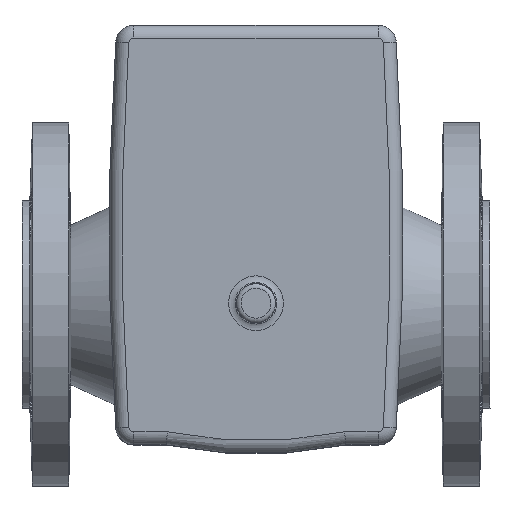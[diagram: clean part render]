
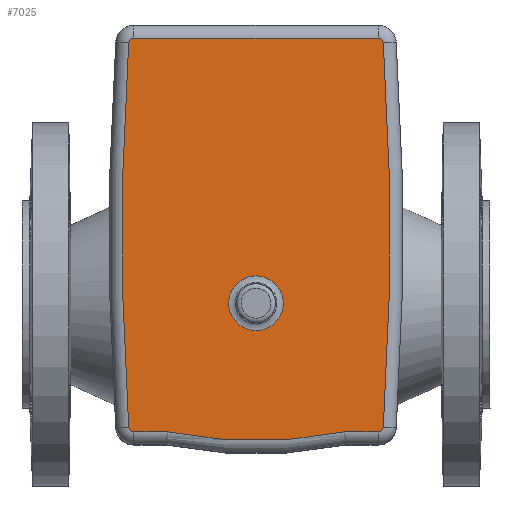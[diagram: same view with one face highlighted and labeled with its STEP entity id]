
A CAD part, top view. The second image highlights one B-rep face of the part: STEP entity #7025.
In plain terms, the highlighted planar face has unit normal (0, 0, 1).
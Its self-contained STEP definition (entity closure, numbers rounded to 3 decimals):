
#248=PLANE('',#7581);
#484=CIRCLE('',#7556,169.964);
#487=CIRCLE('',#7561,1.964);
#489=CIRCLE('',#7564,1096.964);
#491=CIRCLE('',#7567,1.964);
#493=CIRCLE('',#7571,1.964);
#495=CIRCLE('',#7574,1096.964);
#497=CIRCLE('',#7577,1.964);
#499=CIRCLE('',#7582,10.521);
#1853=ORIENTED_EDGE('',*,*,#2582,.F.);
#1854=ORIENTED_EDGE('',*,*,#2579,.F.);
#1855=ORIENTED_EDGE('',*,*,#2577,.F.);
#1856=ORIENTED_EDGE('',*,*,#2575,.F.);
#1857=ORIENTED_EDGE('',*,*,#2593,.F.);
#1858=ORIENTED_EDGE('',*,*,#2591,.F.);
#1859=ORIENTED_EDGE('',*,*,#2589,.F.);
#1860=ORIENTED_EDGE('',*,*,#2588,.F.);
#1861=ORIENTED_EDGE('',*,*,#2586,.F.);
#1862=ORIENTED_EDGE('',*,*,#2584,.F.);
#1863=ORIENTED_EDGE('',*,*,#2595,.T.);
#2575=EDGE_CURVE('',#3044,#3045,#3423,.T.);
#2577=EDGE_CURVE('',#3045,#3046,#484,.T.);
#2579=EDGE_CURVE('',#3046,#3047,#3424,.T.);
#2582=EDGE_CURVE('',#3047,#3048,#487,.T.);
#2584=EDGE_CURVE('',#3048,#3049,#489,.T.);
#2586=EDGE_CURVE('',#3049,#3050,#491,.T.);
#2588=EDGE_CURVE('',#3050,#3051,#3425,.T.);
#2589=EDGE_CURVE('',#3051,#3052,#493,.T.);
#2591=EDGE_CURVE('',#3052,#3053,#495,.T.);
#2593=EDGE_CURVE('',#3053,#3044,#497,.T.);
#2595=EDGE_CURVE('',#3055,#3055,#499,.T.);
#3044=VERTEX_POINT('',#10682);
#3045=VERTEX_POINT('',#10684);
#3046=VERTEX_POINT('',#10693);
#3047=VERTEX_POINT('',#10702);
#3048=VERTEX_POINT('',#10706);
#3049=VERTEX_POINT('',#10710);
#3050=VERTEX_POINT('',#10714);
#3051=VERTEX_POINT('',#10718);
#3052=VERTEX_POINT('',#10722);
#3053=VERTEX_POINT('',#10726);
#3055=VERTEX_POINT('',#10736);
#3423=LINE('',#10683,#3761);
#3424=LINE('',#10701,#3762);
#3425=LINE('',#10719,#3763);
#3761=VECTOR('',#8951,1000.);
#3762=VECTOR('',#8958,1000.);
#3763=VECTOR('',#8983,1000.);
#4089=EDGE_LOOP('',(#1853,#1854,#1855,#1856,#1857,#1858,#1859,#1860,#1861,
#1862));
#4090=EDGE_LOOP('',(#1863));
#4488=FACE_BOUND('',#4089,.T.);
#4489=FACE_BOUND('',#4090,.T.);
#7025=ADVANCED_FACE('',(#4488,#4489),#248,.F.);
#7556=AXIS2_PLACEMENT_3D('',#10692,#8954,#8955);
#7561=AXIS2_PLACEMENT_3D('',#10707,#8965,#8966);
#7564=AXIS2_PLACEMENT_3D('',#10711,#8971,#8972);
#7567=AXIS2_PLACEMENT_3D('',#10715,#8977,#8978);
#7571=AXIS2_PLACEMENT_3D('',#10721,#8986,#8987);
#7574=AXIS2_PLACEMENT_3D('',#10725,#8992,#8993);
#7577=AXIS2_PLACEMENT_3D('',#10729,#8998,#8999);
#7581=AXIS2_PLACEMENT_3D('',#10734,#9006,#9007);
#7582=AXIS2_PLACEMENT_3D('',#10735,#9008,#9009);
#8951=DIRECTION('',(-1.,0.,0.));
#8954=DIRECTION('',(0.,0.,-1.));
#8955=DIRECTION('',(0.,-1.,0.));
#8958=DIRECTION('',(-1.,0.,0.));
#8965=DIRECTION('',(0.,0.,-1.));
#8966=DIRECTION('',(0.,-1.,0.));
#8971=DIRECTION('',(0.,0.,-1.));
#8972=DIRECTION('',(0.,-1.,0.));
#8977=DIRECTION('',(0.,0.,-1.));
#8978=DIRECTION('',(0.,-1.,0.));
#8983=DIRECTION('',(1.,0.,0.));
#8986=DIRECTION('',(0.,0.,-1.));
#8987=DIRECTION('',(0.,-1.,0.));
#8992=DIRECTION('',(0.,0.,-1.));
#8993=DIRECTION('',(0.,-1.,0.));
#8998=DIRECTION('',(0.,0.,-1.));
#8999=DIRECTION('',(0.,-1.,0.));
#9006=DIRECTION('',(0.,0.,-1.));
#9007=DIRECTION('',(0.,-1.,0.));
#9008=DIRECTION('',(0.,0.,-1.));
#9009=DIRECTION('',(0.,-1.,0.));
#10682=CARTESIAN_POINT('',(60.11,-28.605,349.142));
#10683=CARTESIAN_POINT('',(60.11,-28.605,349.142));
#10684=CARTESIAN_POINT('',(47.206,-28.605,349.142));
#10692=CARTESIAN_POINT('',(13.11,137.904,349.142));
#10693=CARTESIAN_POINT('',(-20.986,-28.605,349.142));
#10701=CARTESIAN_POINT('',(-21.489,-28.605,349.142));
#10702=CARTESIAN_POINT('',(-33.89,-28.605,349.142));
#10706=CARTESIAN_POINT('',(-35.85,-26.773,349.142));
#10707=CARTESIAN_POINT('',(-33.89,-26.64,349.142));
#10710=CARTESIAN_POINT('',(-35.85,120.999,349.142));
#10711=CARTESIAN_POINT('',(1058.623,47.113,349.142));
#10714=CARTESIAN_POINT('',(-33.89,122.832,349.142));
#10715=CARTESIAN_POINT('',(-33.89,120.867,349.142));
#10718=CARTESIAN_POINT('',(60.11,122.832,349.142));
#10719=CARTESIAN_POINT('',(-33.89,122.832,349.142));
#10721=CARTESIAN_POINT('',(60.11,120.867,349.142));
#10722=CARTESIAN_POINT('',(62.07,120.999,349.142));
#10725=CARTESIAN_POINT('',(-1032.403,47.113,349.142));
#10726=CARTESIAN_POINT('',(62.07,-26.773,349.142));
#10729=CARTESIAN_POINT('',(60.11,-26.64,349.142));
#10734=CARTESIAN_POINT('',(13.11,20.867,349.142));
#10735=CARTESIAN_POINT('',(13.11,20.867,349.142));
#10736=CARTESIAN_POINT('',(13.11,10.346,349.142));
